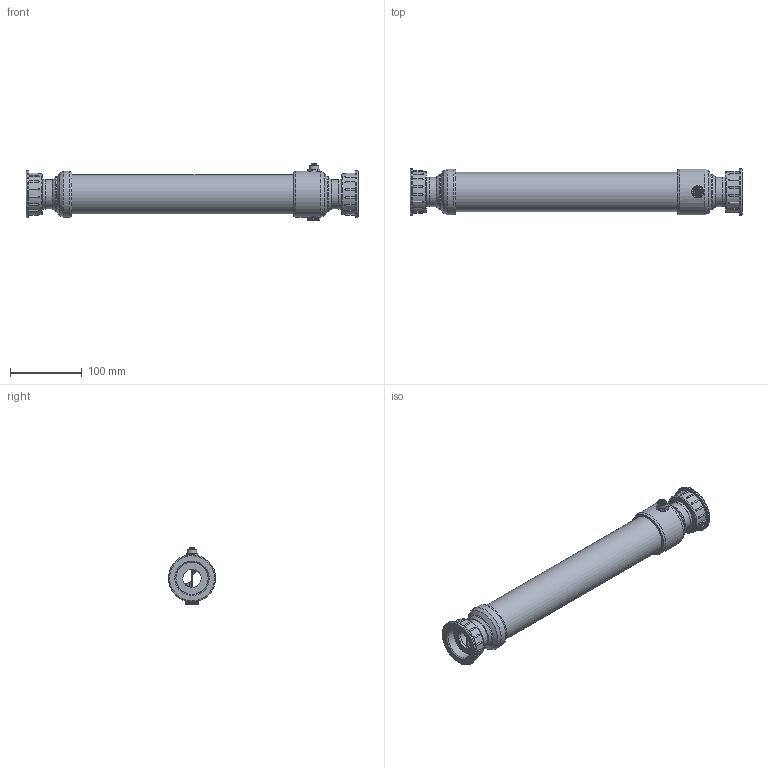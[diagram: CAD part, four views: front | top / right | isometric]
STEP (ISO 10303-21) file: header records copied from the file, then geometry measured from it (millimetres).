
FILE_DESCRIPTION(/* description */ (''),/* implementation_level */ '2;1');
FILE_NAME(/* name */ 'TU H-A 60_3D_V1.0_Simplifier_V1.0.stp',/* time_stamp */ '2024-02-01T10:12:02+01:00',/* author */ ('MassimoMaselli'),/* organization */ (''),/* preprocessor_version */ 'ST-DEVELOPER v20',/* originating_system */ 'Autodesk Inventor 2024',/* authorisation */ '');
FILE_SCHEMA (('AUTOMOTIVE_DESIGN { 1 0 10303 214 3 1 1 }'));
Length unit declared in the file: millimetre
Products named in the file (1): TU H-A 60_V1.0_Simplifier_V1.0
Bounding box: 462 x 65.8 x 79.98 mm (x, y, z)
Volume: 279845.8 mm3; surface area: 280300.9 mm2
Topology: 14 solids, 16 shells, 1095 faces, 2864 edges, 1882 vertices
Faces by surface type: plane 486, cylinder 271, bspline 177, cone 71, torus 58, sphere 32
Full cylindrical faces by diameter (mm): 0.6 x8, 0.65 x8, 0.7 x8, 1 x9, 1.1 x8, 1.17 x8, 1.24 x8, 1.567 x3, 10 x2, 10.25 x5, 10.376 x1, 11 x1, 11.084 x1, 11.9 x1, 12 x4, 13.148 x1, 13.3 x1, 14 x1, 15.5 x1, 25.6 x2, 27.2 x1, 32 x3, 32.3 x4, 36.25 x2, 39 x2, 40.5 x4, 41 x2, 41.2 x2, 44.845 x2, 45 x2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
Entity records: 42828 total; most frequent: CARTESIAN_POINT 14925, ORIENTED_EDGE 5672, DIRECTION 5319, EDGE_CURVE 2837, AXIS2_PLACEMENT_3D 1947, VERTEX_POINT 1882, LINE 1425, VECTOR 1425
